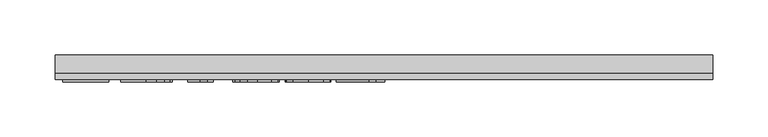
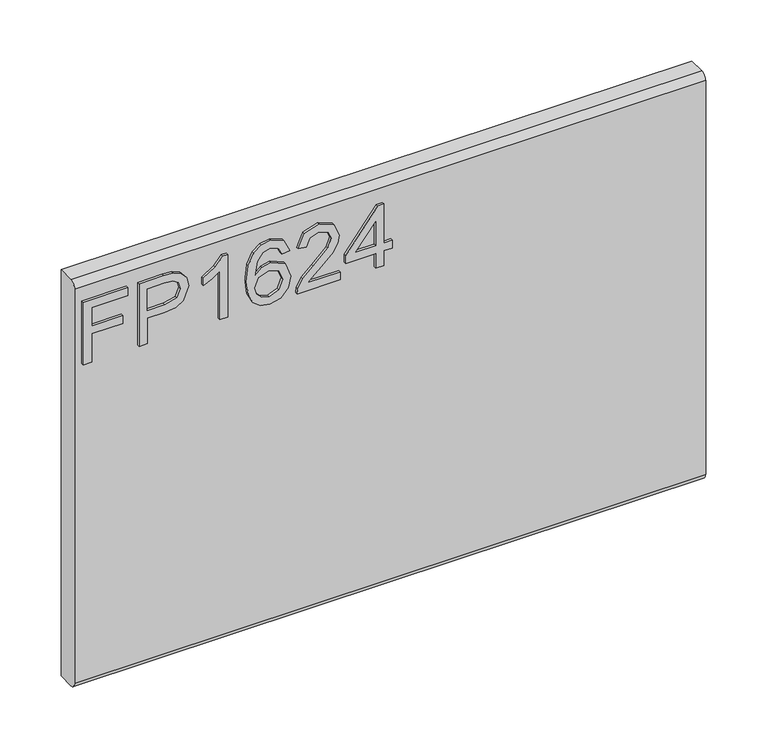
"""IFC4 building model written with IfcOpenShell, lengths in millimetres: furniture geometry."""

import ifcopenshell
import ifcopenshell.guid

model = None  # the IFC model being written
_history = None  # IfcOwnerHistory: only IFC2X3 demands one
_inside = {}  # id of a spatial element -> (the spatial element, [elements in it])
_under = {}  # id of a project, library or spatial element -> (it, [spatial elements below it])
_declared = {}  # id of a project -> (the project, [libraries it declares])
_typed = {}  # id of a type object -> (the type object, [elements of that type])
_made_of = {}  # id of a material, layer set ... -> (it, [elements and type objects made of it])


def new_model(schema):
    """Start an empty IFC model of exactly this schema.

    Asked for "IFC4X3", IfcOpenShell would pick the latest addendum, in which some entities
    have other attributes; the version numbers below select the first issue.
    IFC2X3 requires an IfcOwnerHistory on every rooted entity: one is made here for all.
    """
    global model, _history
    if schema == "IFC4X3":
        model = ifcopenshell.file(schema_version=(4, 3, 0, 0))
    else:
        model = ifcopenshell.file(schema=schema)
    _inside.clear()
    _under.clear()
    _declared.clear()
    _typed.clear()
    _made_of.clear()
    _history = None
    if model.schema == "IFC2X3":
        org = make("IfcOrganization", Name="unknown")
        user = make(
            "IfcPersonAndOrganization",
            ThePerson=make("IfcPerson", FamilyName="unknown"),
            TheOrganization=org,
        )
        app = make(
            "IfcApplication",
            ApplicationDeveloper=org,
            Version="unknown",
            ApplicationFullName="unknown",
            ApplicationIdentifier="unknown",
        )
        _history = make(
            "IfcOwnerHistory",
            OwningUser=user,
            OwningApplication=app,
            ChangeAction="ADDED",
            CreationDate=0,
        )
    return model


def make(cls, **values):
    """One entity of the class cls with the attributes given. An attribute that is None is left unset."""
    return model.create_entity(
        cls, **{name: value for name, value in values.items() if value is not None}
    )


def rooted(cls, **values):
    """An entity with a GlobalId (a new one), such as an element, a storey or a relation."""
    return make(cls, GlobalId=ifcopenshell.guid.new(), OwnerHistory=_history, **values)


def si_unit(unit_type, name, prefix=None):
    """IfcSIUnit, for example si_unit("LENGTHUNIT", "METRE", prefix="MILLI")."""
    return make("IfcSIUnit", UnitType=unit_type, Prefix=prefix, Name=name)


def assignment(units):
    """IfcUnitAssignment: the units of a project."""
    return None if units is None else make("IfcUnitAssignment", Units=units)


def point(xyz):
    """IfcCartesianPoint."""
    return None if xyz is None else make("IfcCartesianPoint", Coordinates=xyz)


def direction(xyz):
    """IfcDirection."""
    return None if xyz is None else make("IfcDirection", DirectionRatios=xyz)


def frame(location, z_axis=None, x_axis=None):
    """IfcAxis2Placement3D, a coordinate frame: its origin and axes. An axis left out is left unset."""
    return make(
        "IfcAxis2Placement3D",
        Location=point(location),
        Axis=direction(z_axis),
        RefDirection=direction(x_axis),
    )


def origin():
    """The frame at (0, 0, 0) with its axes left unset."""
    return frame((0.0, 0.0, 0.0))


def place(relative_to, where):
    """IfcLocalPlacement: puts the frame where relative to a parent placement (None: the world)."""
    return make(
        "IfcLocalPlacement", PlacementRelTo=relative_to, RelativePlacement=where
    )


def context(
    kind, dimensions, precision=None, world=None, true_north=None, identifier=None
):
    """IfcGeometricRepresentationContext, for example the 3D "Model" context."""
    return make(
        "IfcGeometricRepresentationContext",
        ContextIdentifier=identifier,
        ContextType=kind,
        CoordinateSpaceDimension=dimensions,
        Precision=precision,
        WorldCoordinateSystem=world,
        TrueNorth=true_north,
    )


def project(units=None, contexts=None):
    """IfcProject with its units and contexts."""
    return rooted(
        "IfcProject",
        Name="project",
        RepresentationContexts=contexts,
        UnitsInContext=assignment(units),
    )


def spatial(cls, under=None, at=None, **own):
    """A site, building, storey or space (cls), placed at a placement, below another one or the project."""
    s = rooted(cls, ObjectPlacement=at, **own)
    if under is not None:
        _under.setdefault(under.id(), (under, []))[1].append(s)
    return s


def polyline(points):
    """IfcPolyline through the points."""
    return make("IfcPolyline", Points=[point(p) for p in points])


def circle_curve(where, radius):
    """IfcCircle in the frame where."""
    return make("IfcCircle", Position=where, Radius=radius)


def outline(outer, holes=None, kind="AREA"):
    """IfcArbitraryClosedProfileDef: a profile drawn as a closed curve; with holes, ...WithVoids."""
    if holes is None:
        return make("IfcArbitraryClosedProfileDef", ProfileType=kind, OuterCurve=outer)
    return make(
        "IfcArbitraryProfileDefWithVoids",
        ProfileType=kind,
        OuterCurve=outer,
        InnerCurves=holes,
    )


def extrude(swept, where, along, depth):
    """IfcExtrudedAreaSolid: the profile swept, set in the frame where, extruded along a direction by depth."""
    return make(
        "IfcExtrudedAreaSolid",
        SweptArea=swept,
        Position=where,
        ExtrudedDirection=direction(along),
        Depth=depth,
    )


def shape(context_of_items, identifier, shape_type, items):
    """IfcShapeRepresentation: the items that make up one representation, for example the "Body"."""
    return make(
        "IfcShapeRepresentation",
        ContextOfItems=context_of_items,
        RepresentationIdentifier=identifier,
        RepresentationType=shape_type,
        Items=items,
    )


def source(mapping_origin, context_of_items, identifier, shape_type, items):
    """IfcRepresentationMap: a shape defined once, which mapped items show again and again."""
    return make(
        "IfcRepresentationMap",
        MappingOrigin=mapping_origin,
        MappedRepresentation=shape(context_of_items, identifier, shape_type, items),
    )


def transform(
    local_origin,
    x_axis=None,
    y_axis=None,
    z_axis=None,
    scale=None,
    scale2=None,
    scale3=None,
    uniform=True,
):
    """IfcCartesianTransformationOperator3D, or its non-uniform kind. x_axis, y_axis, z_axis: its Axis1, 2, 3."""
    if uniform:
        return make(
            "IfcCartesianTransformationOperator3D",
            Axis1=direction(x_axis),
            Axis2=direction(y_axis),
            LocalOrigin=point(local_origin),
            Scale=scale,
            Axis3=direction(z_axis),
        )
    return make(
        "IfcCartesianTransformationOperator3DnonUniform",
        Axis1=direction(x_axis),
        Axis2=direction(y_axis),
        LocalOrigin=point(local_origin),
        Scale=scale,
        Axis3=direction(z_axis),
        Scale2=scale2,
        Scale3=scale3,
    )


def mapped(mapping_source, mapping_target):
    """IfcMappedItem: shows the shape of a source again, moved by a transform."""
    return make(
        "IfcMappedItem", MappingSource=mapping_source, MappingTarget=mapping_target
    )


def made_of(thing, what):
    """Note that an element or type object is made of a material, layer set ...; save() writes the relation."""
    if what is not None:
        _made_of.setdefault(what.id(), (what, []))[1].append(thing)
    return thing


def element(
    cls,
    number,
    at=None,
    inside=None,
    cuts=None,
    type_object=None,
    material=None,
    context=None,
    identifier="Body",
    shape_type=None,
    held_by="IfcProductDefinitionShape",
    body=None,
    shapes=None,
    **own,
):
    """One element of the class cls, such as IfcWall. Its Tag is "e" and its number.

    at: its placement. inside: the storey or other place that contains it. cuts: it is an
    opening in that element (IfcRelVoidsElement). A single representation is given by context,
    identifier, shape_type and body (its items); several are given by shapes. held_by: the class
    of the entity that holds the representations. save() writes the other relations.
    """
    e = rooted(cls, Tag="e%d" % number, ObjectPlacement=at, **own)
    if body is not None:
        shapes = [shape(context, identifier, shape_type, body)]
    if shapes is not None:
        e.Representation = make(held_by, Representations=shapes)
    if inside is not None:
        _inside.setdefault(inside.id(), (inside, []))[1].append(e)
    if cuts is not None:
        rooted(
            "IfcRelVoidsElement", RelatingBuildingElement=cuts, RelatedOpeningElement=e
        )
    if type_object is not None:
        _typed.setdefault(type_object.id(), (type_object, []))[1].append(e)
    return made_of(e, material)


def aggregate(whole, parts):
    """IfcRelAggregates: a whole, such as a stair, and the parts it consists of."""
    return rooted("IfcRelAggregates", RelatingObject=whole, RelatedObjects=parts)


def save(model, path):
    """Write the relations noted so far, then the file.

    IfcRelAggregates (storeys below a building ...), IfcRelContainedInSpatialStructure (elements
    in a storey), IfcRelDefinesByType, IfcRelAssociatesMaterial and IfcRelDeclares: one each for
    every whole, place, type object, material and project.
    """
    for whole, parts in _under.values():
        aggregate(whole, parts)
    for where, things in _inside.values():
        rooted(
            "IfcRelContainedInSpatialStructure",
            RelatedElements=things,
            RelatingStructure=where,
        )
    for kind, things in _typed.values():
        rooted("IfcRelDefinesByType", RelatedObjects=things, RelatingType=kind)
    for what, things in _made_of.values():
        rooted("IfcRelAssociatesMaterial", RelatedObjects=things, RelatingMaterial=what)
    for by, libraries in _declared.values():
        rooted("IfcRelDeclares", RelatingContext=by, RelatedDefinitions=libraries)
    model.write(path)


def plane_surface(at):
    """IfcPlane: the flat surface through the origin of the frame at, square to its z axis."""
    return make("IfcPlane", Position=at)


def cylinder_surface(at, radius):
    """IfcCylindricalSurface: all points at the distance radius from the z axis of the frame at."""
    return make("IfcCylindricalSurface", Position=at, Radius=radius)


def advanced_brep(points, edges, surfaces, faces):
    """IfcAdvancedBrep: a solid bounded by faces that lie on surfaces and meet in shared edges.

    An edge is (start, end): straight between two places in points (the first is 0);
    or (start, end, curve); or (start, end, curve, False) where it runs against its curve.
    A face is (place in surfaces, loops), or (place, loops, False) where it looks against
    its surface's normal. A loop lists edges by number (the first is 1), with a minus sign
    where the edge is run from its end to its start. The first loop is the outer one.
    """
    corners = [point(p) for p in points]
    vertices = [make("IfcVertexPoint", VertexGeometry=c) for c in corners]
    made = []
    for start, end, *more in edges:
        made.append(
            make(
                "IfcEdgeCurve",
                EdgeStart=vertices[start],
                EdgeEnd=vertices[end],
                EdgeGeometry=more[0] if more else make("IfcPolyline", Points=[corners[start], corners[end]]),
                SameSense=more[1] if len(more) > 1 else True,
            )
        )
    hull = []
    for where, loops, *sense in faces:
        bounds = []
        for j, loop in enumerate(loops):
            ring = [make("IfcOrientedEdge", EdgeElement=made[abs(k) - 1], Orientation=k > 0) for k in loop]
            bounds.append(
                make(
                    "IfcFaceOuterBound" if j == 0 else "IfcFaceBound",
                    Bound=make("IfcEdgeLoop", EdgeList=ring),
                    Orientation=True,
                )
            )
        hull.append(make("IfcAdvancedFace", Bounds=bounds, FaceSurface=surfaces[where], SameSense=sense[0] if sense else True))
    return make("IfcAdvancedBrep", Outer=make("IfcClosedShell", CfsFaces=hull))


def furniture_ac2deed5(model_context):
    return source(origin(), model_context, "Body", "SolidModel", [
        extrude(outline(polyline([(1289.05, -291.6115385), (1289.05, -283.7961538), (1317.3807692, -283.7961538), (1317.3807692, -254.4884615), (1325.1961538, -254.4884615), (1325.1961538, -283.7961538), (1343.7576923, -283.7961538), (1343.7576923, -249.6038462), (1351.5730769, -249.6038462), (1351.5730769, -291.6115385), (1289.05, -291.6115385)])), frame((0.0, -15.0812439, 0.0), z_axis=(0.0, 1.0, 0.0), x_axis=(0.0, 0.0, 1.0)), (0.0, 0.0, 1.0), 2.38125),
        extrude(outline(polyline([(1289.05, -238.8576923), (1289.05, -231.0423077), (1314.45, -231.0423077), (1314.45, -215.1520433), (1315.8314303, -204.0490835), (1319.9757212, -196.995012), (1333.4847356, -191.9653846), (1342.0099159, -193.8276442), (1348.0546274, -198.7504207), (1350.9777644, -206.3444712), (1351.5730769, -215.6862981), (1351.5730769, -238.8576923), (1289.05, -238.8576923)]), holes=[polyline([(1322.2653846, -231.0423077), (1343.7576923, -231.0423077), (1343.7576923, -214.8772837), (1343.2234375, -207.061899), (1339.6820913, -201.7880409), (1333.209976, -199.7807692), (1325.1350962, -203.1847356), (1322.2653846, -214.6941106), (1322.2653846, -231.0423077)])]), frame((0.0, -15.0812439, 0.0), z_axis=(0.0, 1.0, 0.0), x_axis=(0.0, 0.0, 1.0)), (0.0, 0.0, 1.0), 2.38125),
        extrude(outline(polyline([(1289.05, -154.8423077), (1351.5730769, -154.8423077), (1351.5730769, -159.8795673), (1343.2539663, -166.832512), (1335.9423077, -178.2884615), (1328.5543269, -178.2884615), (1332.5001803, -170.0609375), (1337.7740385, -162.6576923), (1289.05, -162.6576923), (1289.05, -154.8423077)])), frame((0.0, -15.0812439, 0.0), z_axis=(0.0, 1.0, 0.0), x_axis=(0.0, 0.0, 1.0)), (0.0, 0.0, 1.0), 2.38125),
        extrude(outline(polyline([(1334.9653846, -96.2269231), (1347.1616587, -101.996875), (1351.5730769, -114.3457933), (1349.7909555, -123.4166767), (1344.4445913, -130.4192308), (1333.8014724, -135.5480769), (1318.2355769, -137.2576923), (1304.3907452, -135.7178936), (1295.0947115, -131.0984976), (1289.8284856, -124.0367939), (1288.0730769, -115.1700721), (1290.7214543, -104.9276442), (1298.3536659, -97.8296875), (1309.1379808, -95.25), (1323.5323317, -100.7299279), (1329.1038462, -114.009976), (1327.0660457, -122.5504207), (1320.8305288, -129.4423077), (1334.7593149, -127.2213341), (1341.8649038, -121.8864183), (1343.7576923, -114.8342548), (1340.5063702, -107.0036058), (1333.9884615, -104.0423077), (1334.9653846, -96.2269231)]), holes=[polyline([(1309.2600962, -129.4423077), (1317.9684495, -125.557512), (1321.2884615, -116.1012019), (1317.9684495, -106.5227764), (1308.8784856, -103.0653846), (1299.3840144, -106.5685697), (1295.8884615, -115.780649), (1297.5751803, -122.8251803), (1302.4903245, -127.6334736), (1309.2600962, -129.4423077)])]), frame((0.0, -15.0812439, 0.0), z_axis=(0.0, 1.0, 0.0), x_axis=(0.0, 0.0, 1.0)), (0.0, 0.0, 1.0), 2.38125),
        extrude(outline(polyline([(1296.8653846, -48.3576923), (1296.8653846, -79.0544471), (1300.8417668, -75.5283654), (1308.3594952, -66.5376202), (1319.067488, -55.3411659), (1326.7302284, -50.7236779), (1334.1411058, -49.3346154), (1346.5663462, -54.4863582), (1351.5730769, -68.4762019), (1347.0700721, -82.4202524), (1333.9884615, -88.4115385), (1333.0115385, -80.5961538), (1340.9032452, -77.3066707), (1343.7576923, -68.6441106), (1340.8345553, -60.3326322), (1333.6679087, -57.15), (1324.8145433, -60.5234375), (1311.7939904, -74.0171875), (1302.7345553, -83.8016827), (1294.4383413, -88.5489183), (1289.05, -89.3884615), (1289.05, -48.3576923), (1296.8653846, -48.3576923)])), frame((0.0, -15.0812439, 0.0), z_axis=(0.0, 1.0, 0.0), x_axis=(0.0, 0.0, 1.0)), (0.0, 0.0, 1.0), 2.38125),
        extrude(outline(polyline([(1289.05, -15.1423077), (1289.05, -7.3269231), (1303.7038462, -7.3269231), (1303.7038462, 0.4884615), (1311.5192308, 0.4884615), (1311.5192308, -7.3269231), (1350.5961538, -7.3269231), (1350.5961538, -13.1884615), (1311.5192308, -43.4730769), (1303.7038462, -43.4730769), (1303.7038462, -15.1423077), (1289.05, -15.1423077)]), holes=[polyline([(1311.5192308, -15.1423077), (1311.5192308, -33.8564904), (1335.6675481, -15.1423077), (1311.5192308, -15.1423077)])]), frame((0.0, -15.0812439, 0.0), z_axis=(0.0, 1.0, 0.0), x_axis=(0.0, 0.0, 1.0)), (0.0, 0.0, 1.0), 2.38125),
        advanced_brep(
        [(298.45, 9.5250061, 1371.6), (298.45, -6.7309939, 1371.6), (298.45, -12.6999939, 1365.631), (298.45, -12.6999939, 971.169), (298.45, -6.7309939, 965.2), (298.45, 9.5250061, 965.2), (-298.45, 9.5250061, 1371.6), (-298.45, 9.5250061, 965.2), (-298.45, -6.7309939, 965.2), (-298.45, -12.6999939, 971.169), (-298.45, -12.6999939, 1365.6310121), (-298.45, -6.7309939, 1371.6)],
        [
            (0, 1),
            (1, 2, circle_curve(frame((298.45, -6.7309939, 1365.631), z_axis=(1.0, 0.0, 0.0), x_axis=(0.0, 1.0, 0.0)), 5.969)),
            (2, 3),
            (3, 4, circle_curve(frame((298.45, -6.7309939, 971.169), z_axis=(1.0, 0.0, 0.0), x_axis=(0.0, 1.0, 0.0)), 5.969)),
            (4, 5),
            (5, 0),
            (6, 7),
            (7, 8),
            (8, 9, circle_curve(frame((-298.45, -6.7309939, 971.169), z_axis=(-1.0, 0.0, 0.0), x_axis=(0.0, 1.0, 0.0)), 5.969)),
            (9, 10),
            (10, 11, circle_curve(frame((-298.45, -6.7309939, 1365.631), z_axis=(-1.0, 0.0, 0.0), x_axis=(0.0, 1.0, 0.0)), 5.969)),
            (11, 6),
            (0, 6),
            (11, 1),
            (10, 2),
            (9, 3),
            (8, 4),
            (7, 5),
        ],
        [
            plane_surface(frame((298.45, -6.7309939, 1371.6), z_axis=(1.0, 0.0, 0.0), x_axis=(0.0, -1.0, 0.0))),
            plane_surface(frame((-298.45, -6.7309939, 1371.6), z_axis=(-1.0, 0.0, 0.0), x_axis=(0.0, 1.0, 0.0))),
            plane_surface(frame((298.45, 9.5250061, 1371.6), z_axis=(0.0, 0.0, 1.0), x_axis=(-1.0, 0.0, 0.0))),
            cylinder_surface(frame((-298.45, -6.7309939, 1365.631), z_axis=(1.0, 0.0, 0.0), x_axis=(0.0, 1.0, 0.0)), 5.969),
            plane_surface(frame((298.45, -12.6999939, 1365.6310121), z_axis=(0.0, -1.0, 0.0), x_axis=(-1.0, 0.0, 0.0))),
            cylinder_surface(frame((-298.45, -6.7309939, 971.169), z_axis=(1.0, 0.0, 0.0), x_axis=(0.0, 1.0, 0.0)), 5.969),
            plane_surface(frame((298.45, -6.7309939, 965.2), z_axis=(0.0, 0.0, -1.0), x_axis=(-1.0, 0.0, 0.0))),
            plane_surface(frame((298.45, 9.5250061, 965.2), z_axis=(0.0, 1.0, 0.0), x_axis=(-1.0, 0.0, 0.0))),
        ],
        [
            (0, [[1, 2, 3, 4, 5, 6]]),
            (1, [[7, 8, 9, 10, 11, 12]]),
            (2, [[-1, 13, -12, 14]]),
            (3, [[-2, -14, -11, 15]]),
            (4, [[-3, -15, -10, 16]]),
            (5, [[-4, -16, -9, 17]]),
            (6, [[-5, -17, -8, 18]]),
            (7, [[-6, -18, -7, -13]]),
        ],
    ),
    ])


if __name__ == "__main__":
    model = new_model("IFC4")
    model_context = context("Model", 3, world=origin())
    ifc_project = project(units=[si_unit("LENGTHUNIT", "METRE", prefix="MILLI")], contexts=[model_context])
    site = spatial("IfcSite", under=ifc_project)
    building = spatial("IfcBuilding", under=site)
    placement = place(None, origin())
    furniture_shape = furniture_ac2deed5(model_context)
    element("IfcFurniture", 1, ObjectType="HermanMiller_Ethospace_E1420_FaceTile : Ptd 16\"H x 24\"W", at=placement, inside=building, context=model_context, shape_type="MappedRepresentation", body=[
        mapped(furniture_shape, transform((0.0, 0.0, 0.0), x_axis=(1.0, 0.0, 0.0), y_axis=(0.0, 1.0, 0.0), z_axis=(0.0, 0.0, 1.0))),
    ])
    save(model, "model.ifc")
